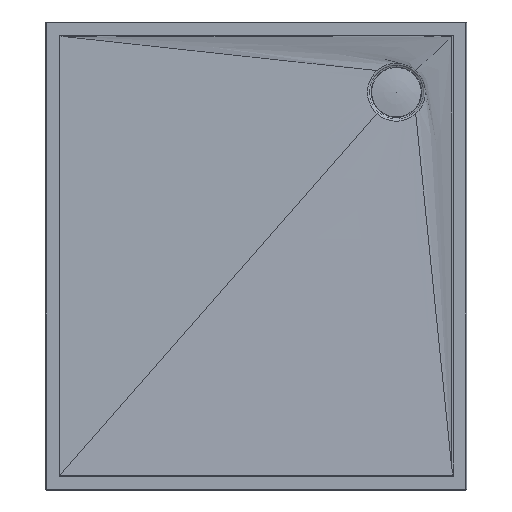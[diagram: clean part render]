
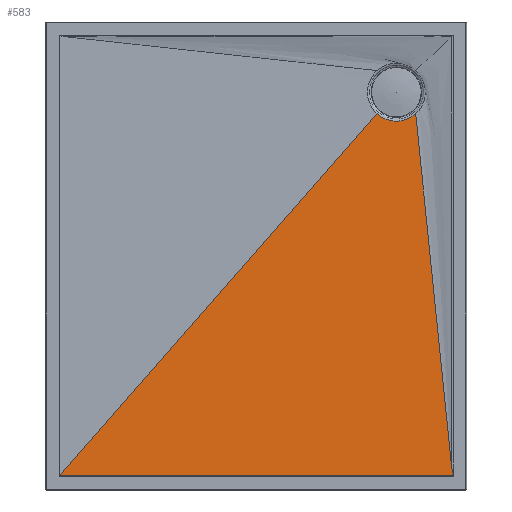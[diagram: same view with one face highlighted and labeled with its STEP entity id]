
A CAD part, top view. The second image highlights one B-rep face of the part: STEP entity #583.
In plain terms, the highlighted free-form (B-spline) face has degree [3, 3] with [7, 4] control points.
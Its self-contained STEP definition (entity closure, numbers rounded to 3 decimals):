
#28=B_SPLINE_CURVE_WITH_KNOTS('',3,(#997,#998,#999,#1000),.UNSPECIFIED.,
 .F.,.F.,(4,4),(0.045,0.052),.UNSPECIFIED.);
#29=B_SPLINE_CURVE_WITH_KNOTS('',3,(#1019,#1020,#1021,#1022),
 .UNSPECIFIED.,.F.,.F.,(4,4),(-83.981,0.),
 .UNSPECIFIED.);
#30=B_SPLINE_CURVE_WITH_KNOTS('',3,(#1023,#1024,#1025,#1026),
 .UNSPECIFIED.,.F.,.F.,(4,4),(0.,0.),
 .UNSPECIFIED.);
#33=B_SPLINE_CURVE_WITH_KNOTS('',3,(#1039,#1040,#1041,#1042),
 .UNSPECIFIED.,.F.,.F.,(4,4),(-84.13,-83.981),
 .UNSPECIFIED.);
#35=B_SPLINE_CURVE_WITH_KNOTS('',3,(#1080,#1081,#1082,#1083,#1084,#1085,
#1086,#1087,#1088,#1089),.UNSPECIFIED.,.F.,.F.,(4,2,2,2,4),(-1.119,
-0.561,-0.177,-0.075,-0.044),
 .UNSPECIFIED.);
#44=B_SPLINE_SURFACE_WITH_KNOTS('',3,3,((#1306,#1307,#1308,#1309),(#1310,
#1311,#1312,#1313),(#1314,#1315,#1316,#1317),(#1318,#1319,#1320,#1321),
(#1322,#1323,#1324,#1325),(#1326,#1327,#1328,#1329),(#1330,#1331,#1332,
#1333)),.UNSPECIFIED.,.F.,.F.,.F.,(4,1,1,1,4),(4,4),(0.,
0.286,0.572,0.859,1.002),
(0.,1.),.UNSPECIFIED.);
#52=LINE('',#1177,#79);
#76=LINE('',#1334,#103);
#79=VECTOR('',#700,777.994);
#103=VECTOR('',#818,1029.46);
#150=FACE_OUTER_BOUND('',#187,.T.);
#187=EDGE_LOOP('',(#522,#523,#524,#525,#526,#527,#528,#529));
#224=CIRCLE('',#655,61.89);
#245=VERTEX_POINT('',#977);
#248=VERTEX_POINT('',#992);
#249=VERTEX_POINT('',#1017);
#250=VERTEX_POINT('',#1018);
#252=VERTEX_POINT('',#1032);
#254=VERTEX_POINT('',#1072);
#256=VERTEX_POINT('',#1175);
#283=VERTEX_POINT('',#1288);
#308=EDGE_CURVE('',#248,#245,#28,.T.);
#309=EDGE_CURVE('',#249,#250,#29,.T.);
#310=EDGE_CURVE('',#248,#250,#30,.T.);
#313=EDGE_CURVE('',#252,#249,#33,.T.);
#315=EDGE_CURVE('',#254,#252,#35,.T.);
#320=EDGE_CURVE('',#256,#254,#52,.T.);
#362=EDGE_CURVE('',#256,#283,#224,.T.);
#372=EDGE_CURVE('',#283,#245,#76,.T.);
#522=ORIENTED_EDGE('',*,*,#309,.F.);
#523=ORIENTED_EDGE('',*,*,#313,.F.);
#524=ORIENTED_EDGE('',*,*,#315,.F.);
#525=ORIENTED_EDGE('',*,*,#320,.F.);
#526=ORIENTED_EDGE('',*,*,#362,.T.);
#527=ORIENTED_EDGE('',*,*,#372,.T.);
#528=ORIENTED_EDGE('',*,*,#308,.F.);
#529=ORIENTED_EDGE('',*,*,#310,.T.);
#583=ADVANCED_FACE('',(#150),#44,.F.);
#655=AXIS2_PLACEMENT_3D('',#1290,#796,#797);
#700=DIRECTION('',(0.101,-0.995,0.019));
#796=DIRECTION('center_axis',(0.,0.,-1.));
#797=DIRECTION('ref_axis',(-1.,0.,0.));
#818=DIRECTION('',(-0.659,-0.752,0.015));
#977=CARTESIAN_POINT('',(6406.923,2267.72,30.076));
#992=CARTESIAN_POINT('',(6406.869,2267.662,30.078));
#997=CARTESIAN_POINT('Ctrl Pts',(6406.869,2267.662,30.078));
#998=CARTESIAN_POINT('Ctrl Pts',(6406.888,2267.681,30.077));
#999=CARTESIAN_POINT('Ctrl Pts',(6406.906,2267.701,30.077));
#1000=CARTESIAN_POINT('Ctrl Pts',(6406.923,2267.72,30.076));
#1017=CARTESIAN_POINT('',(7246.683,2267.662,30.078));
#1018=CARTESIAN_POINT('',(6406.872,2267.662,30.078));
#1019=CARTESIAN_POINT('Ctrl Pts',(7246.683,2267.662,30.078));
#1020=CARTESIAN_POINT('Ctrl Pts',(6966.746,2267.667,30.077));
#1021=CARTESIAN_POINT('Ctrl Pts',(6686.809,2267.667,30.077));
#1022=CARTESIAN_POINT('Ctrl Pts',(6406.872,2267.662,30.078));
#1023=CARTESIAN_POINT('Ctrl Pts',(6406.869,2267.662,30.078));
#1024=CARTESIAN_POINT('Ctrl Pts',(6406.87,2267.662,30.078));
#1025=CARTESIAN_POINT('Ctrl Pts',(6406.871,2267.662,30.078));
#1026=CARTESIAN_POINT('Ctrl Pts',(6406.872,2267.662,30.078));
#1032=CARTESIAN_POINT('',(7248.169,2267.662,30.078));
#1039=CARTESIAN_POINT('Ctrl Pts',(7248.169,2267.662,30.078));
#1040=CARTESIAN_POINT('Ctrl Pts',(7247.673,2267.662,30.078));
#1041=CARTESIAN_POINT('Ctrl Pts',(7247.178,2267.662,30.078));
#1042=CARTESIAN_POINT('Ctrl Pts',(7246.683,2267.662,30.078));
#1072=CARTESIAN_POINT('',(7244.914,2285.037,29.741));
#1080=CARTESIAN_POINT('Ctrl Pts',(7244.914,2285.037,29.741));
#1081=CARTESIAN_POINT('Ctrl Pts',(7245.243,2281.811,29.803));
#1082=CARTESIAN_POINT('Ctrl Pts',(7245.679,2277.986,29.877));
#1083=CARTESIAN_POINT('Ctrl Pts',(7246.551,2272.547,29.983));
#1084=CARTESIAN_POINT('Ctrl Pts',(7246.985,2270.344,30.026));
#1085=CARTESIAN_POINT('Ctrl Pts',(7247.623,2268.572,30.06));
#1086=CARTESIAN_POINT('Ctrl Pts',(7247.787,2268.187,30.067));
#1087=CARTESIAN_POINT('Ctrl Pts',(7248.031,2267.821,30.074));
#1088=CARTESIAN_POINT('Ctrl Pts',(7248.096,2267.735,30.076));
#1089=CARTESIAN_POINT('Ctrl Pts',(7248.169,2267.662,30.078));
#1175=CARTESIAN_POINT('',(7167.941,3041.32,15.081));
#1177=CARTESIAN_POINT('',(7167.941,3041.32,15.081));
#1288=CARTESIAN_POINT('',(7085.463,3041.32,15.081));
#1290=CARTESIAN_POINT('Origin',(7126.702,3087.469,15.081));
#1306=CARTESIAN_POINT('Ctrl Pts',(7085.463,3041.32,15.081));
#1307=CARTESIAN_POINT('Ctrl Pts',(6859.265,2783.434,20.08));
#1308=CARTESIAN_POINT('Ctrl Pts',(6633.067,2525.548,25.079));
#1309=CARTESIAN_POINT('Ctrl Pts',(6406.869,2267.662,30.078));
#1310=CARTESIAN_POINT('Ctrl Pts',(7091.885,3035.581,15.081));
#1311=CARTESIAN_POINT('Ctrl Pts',(6890.255,2779.609,20.08));
#1312=CARTESIAN_POINT('Ctrl Pts',(6688.621,2523.633,25.079));
#1313=CARTESIAN_POINT('Ctrl Pts',(6486.992,2267.661,30.078));
#1314=CARTESIAN_POINT('Ctrl Pts',(7107.157,3026.827,15.081));
#1315=CARTESIAN_POINT('Ctrl Pts',(6953.851,2773.771,20.08));
#1316=CARTESIAN_POINT('Ctrl Pts',(6800.545,2520.714,25.079));
#1317=CARTESIAN_POINT('Ctrl Pts',(6647.24,2267.659,30.078));
#1318=CARTESIAN_POINT('Ctrl Pts',(7133.424,3024.107,15.081));
#1319=CARTESIAN_POINT('Ctrl Pts',(7051.488,2771.957,20.08));
#1320=CARTESIAN_POINT('Ctrl Pts',(6969.548,2519.807,25.079));
#1321=CARTESIAN_POINT('Ctrl Pts',(6887.612,2267.658,30.078));
#1322=CARTESIAN_POINT('Ctrl Pts',(7154.348,3030.914,15.081));
#1323=CARTESIAN_POINT('Ctrl Pts',(7132.205,2776.497,20.08));
#1324=CARTESIAN_POINT('Ctrl Pts',(7110.064,2522.077,25.079));
#1325=CARTESIAN_POINT('Ctrl Pts',(7087.921,2267.66,30.078));
#1326=CARTESIAN_POINT('Ctrl Pts',(7164.857,3038.549,15.081));
#1327=CARTESIAN_POINT('Ctrl Pts',(7179.275,2781.585,20.08));
#1328=CARTESIAN_POINT('Ctrl Pts',(7193.689,2524.625,25.079));
#1329=CARTESIAN_POINT('Ctrl Pts',(7208.107,2267.662,30.078));
#1330=CARTESIAN_POINT('Ctrl Pts',(7168.06,3041.427,15.081));
#1331=CARTESIAN_POINT('Ctrl Pts',(7194.763,2783.505,20.08));
#1332=CARTESIAN_POINT('Ctrl Pts',(7221.466,2525.584,25.079));
#1333=CARTESIAN_POINT('Ctrl Pts',(7248.169,2267.662,30.078));
#1334=CARTESIAN_POINT('',(7085.463,3041.32,15.081));
